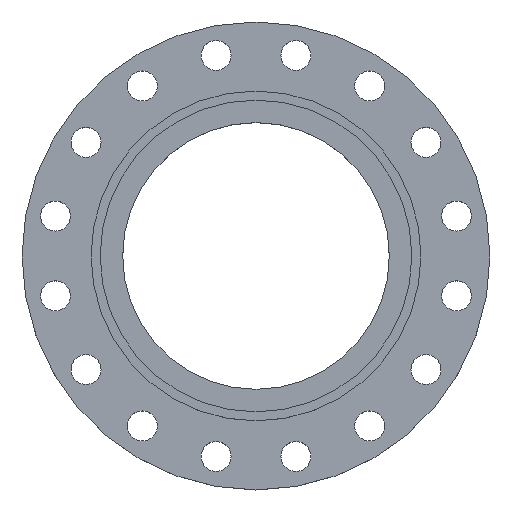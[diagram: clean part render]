
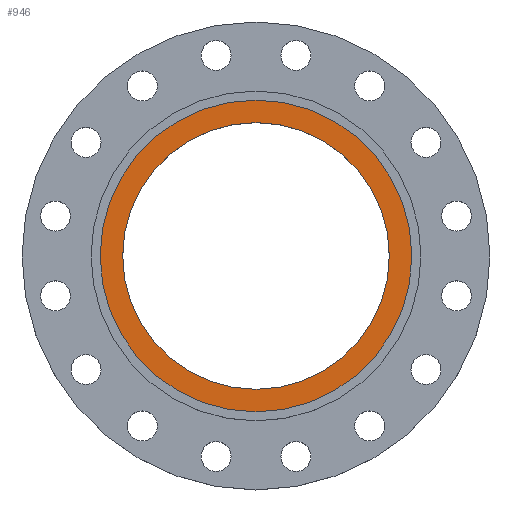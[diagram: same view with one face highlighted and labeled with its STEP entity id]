
A CAD part, top view. The second image highlights one B-rep face of the part: STEP entity #946.
In plain terms, the highlighted planar face has unit normal (0, 0, 1).
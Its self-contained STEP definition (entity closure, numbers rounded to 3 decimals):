
#28 = CARTESIAN_POINT ( 'NONE',  ( 171.5, 0., -5. ) ) ;
#98 = AXIS2_PLACEMENT_3D ( 'NONE', #1516, #1517, #1518 ) ;
#219 = VERTEX_POINT ( 'NONE', #28 ) ;
#238 = CIRCLE ( 'NONE', #978, 146.752 ) ;
#420 = DIRECTION ( 'NONE',  ( -1., 0., 0. ) ) ;
#421 = DIRECTION ( 'NONE',  ( 0., 0., -1. ) ) ;
#423 = CARTESIAN_POINT ( 'NONE',  ( 0., 0., -5. ) ) ;
#439 = ORIENTED_EDGE ( 'NONE', *, *, #1520, .F. ) ;
#450 = ORIENTED_EDGE ( 'NONE', *, *, #553, .F. ) ;
#481 = VERTEX_POINT ( 'NONE', #1589 ) ;
#490 = ORIENTED_EDGE ( 'NONE', *, *, #1171, .F. ) ;
#506 = ORIENTED_EDGE ( 'NONE', *, *, #630, .F. ) ;
#533 = VERTEX_POINT ( 'NONE', #1563 ) ;
#553 = EDGE_CURVE ( 'NONE', #659, #533, #238, .T. ) ;
#606 = AXIS2_PLACEMENT_3D ( 'NONE', #423, #421, #420 ) ;
#615 = DIRECTION ( 'NONE',  ( 1., 0., 0. ) ) ;
#616 = DIRECTION ( 'NONE',  ( 0., 0., 1. ) ) ;
#617 = CARTESIAN_POINT ( 'NONE',  ( 0., 0., -5. ) ) ;
#630 = EDGE_CURVE ( 'NONE', #481, #219, #1037, .T. ) ;
#659 = VERTEX_POINT ( 'NONE', #1445 ) ;
#719 = CIRCLE ( 'NONE', #900, 146.752 ) ;
#900 = AXIS2_PLACEMENT_3D ( 'NONE', #617, #616, #615 ) ;
#909 = DIRECTION ( 'NONE',  ( 1., 0., 0. ) ) ;
#910 = DIRECTION ( 'NONE',  ( 0., 0., 1. ) ) ;
#912 = CARTESIAN_POINT ( 'NONE',  ( 171.5, 0., -5. ) ) ;
#914 = PLANE ( 'NONE',  #1432 ) ;
#917 = FACE_OUTER_BOUND ( 'NONE', #1504, .T. ) ;
#918 = FACE_BOUND ( 'NONE', #1426, .T. ) ;
#946 = ADVANCED_FACE ( 'NONE', ( #918, #917 ), #914, .T. ) ;
#978 = AXIS2_PLACEMENT_3D ( 'NONE', #1546, #1545, #1544 ) ;
#1037 = CIRCLE ( 'NONE', #98, 171.5 ) ;
#1171 = EDGE_CURVE ( 'NONE', #533, #659, #719, .T. ) ;
#1285 = CIRCLE ( 'NONE', #606, 171.5 ) ;
#1426 = EDGE_LOOP ( 'NONE', ( #490, #450 ) ) ;
#1432 = AXIS2_PLACEMENT_3D ( 'NONE', #912, #910, #909 ) ;
#1445 = CARTESIAN_POINT ( 'NONE',  ( -146.752, 0., -5. ) ) ;
#1504 = EDGE_LOOP ( 'NONE', ( #506, #439 ) ) ;
#1516 = CARTESIAN_POINT ( 'NONE',  ( 0., 0., -5. ) ) ;
#1517 = DIRECTION ( 'NONE',  ( 0., 0., -1. ) ) ;
#1518 = DIRECTION ( 'NONE',  ( -1., 0., 0. ) ) ;
#1520 = EDGE_CURVE ( 'NONE', #219, #481, #1285, .T. ) ;
#1544 = DIRECTION ( 'NONE',  ( 1., 0., 0. ) ) ;
#1545 = DIRECTION ( 'NONE',  ( 0., 0., 1. ) ) ;
#1546 = CARTESIAN_POINT ( 'NONE',  ( 0., 0., -5. ) ) ;
#1563 = CARTESIAN_POINT ( 'NONE',  ( 146.752, 0., -5. ) ) ;
#1589 = CARTESIAN_POINT ( 'NONE',  ( -171.5, 0., -5. ) ) ;
